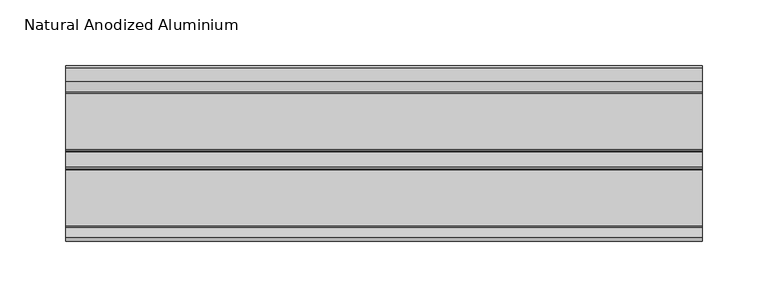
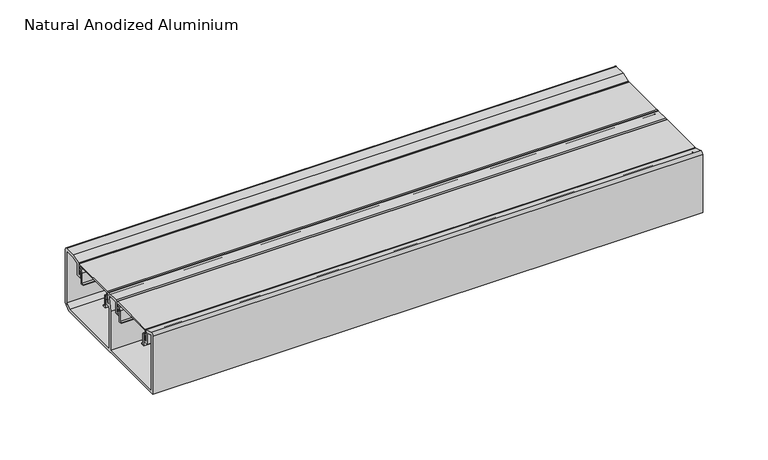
"""IFC4 building model written with IfcOpenShell, lengths in millimetres: proxy geometry, Electrical_Installations_Hager_GBA-Flat-Lid-End-Cap : Natural Anodized Aluminium."""

from ifc_helpers import new_model, si_unit, point, frame, frame_2d, origin, place, context, project, spatial, polyline, circle_curve, trimmed, segment, composite_curve, outline, extrude, source, transform, mapped, element, save


def natural_anodized_aluminium_9d60b319(model_context):
    return source(origin(), model_context, "Body", "SweptSolid", [
        extrude(outline(composite_curve([segment(polyline([(-64.6976563, 54.0894343), (-64.6976563, 2.0), (-2.2476563, 2.0), (-2.2476563, 38.3324137), (-0.2476563, 49.6749773), (-0.2476563, 52.0), (-9.8476563, 52.0), (-9.8476563, 41.5012147), (-14.5382813, 41.5012147), (-14.5382813, 45.748101), (-13.5382813, 45.748101), (-13.5382813, 42.9887147), (-11.6476563, 42.9887147), (-11.6476563, 53.0031102)]), True, "CONTINUOUS"), segment(trimmed(circle_curve(frame_2d((-10.6507665, 53.0031102)), 0.9968898), [point((-11.6476563, 53.0031102))], [point((-10.6507665, 54.0))], False, "CARTESIAN"), True, "CONTINUOUS"), segment(polyline([(-10.6507665, 54.0), (0.7441474, 54.0)]), True, "CONTINUOUS"), segment(trimmed(circle_curve(frame_2d((0.7441474, 52.9918037)), 1.0081963), [point((0.7441474, 54.0))], [point((1.7523437, 52.9918037))], False, "CARTESIAN"), True, "CONTINUOUS"), segment(polyline([(1.7523437, 52.9918037), (1.7523437, 49.5), (0.6591165, 43.3), (3.2523437, 43.3), (3.2523437, 45.7537431), (4.2523437, 45.7537431), (4.2523437, 41.5), (0.3417279, 41.5), (-0.2476563, 38.1574364), (-0.2476563, 2.0), (60.5496526, 2.0), (64.5023437, 5.9526912), (64.5023437, 54.2), (54.8614746, 54.2), (48.5523437, 52.1500391), (48.5523437, 41.5), (44.2523437, 41.5), (44.2523437, 45.7556921), (45.2523437, 45.7556921), (45.2523437, 42.9887147), (46.7523437, 42.9887147), (46.7523437, 53.9835468), (54.4971904, 56.5), (64.8989144, 56.5)]), True, "CONTINUOUS"), segment(trimmed(circle_curve(frame_2d((64.8989144, 54.5965707)), 1.9034293), [point((64.8989144, 56.5))], [point((66.8023437, 54.5965707))], False, "CARTESIAN"), True, "CONTINUOUS"), segment(polyline([(66.8023437, 54.5965707), (66.8023437, 5.0), (61.8023437, 0.0), (-66.9976563, 0.0), (-66.9976563, 54.4045249)]), True, "CONTINUOUS"), segment(trimmed(circle_curve(frame_2d((-64.9278927, 54.4045249)), 2.0697636), [point((-66.9976563, 54.4045249))], [point((-64.2989994, 56.3764312))], False, "CARTESIAN"), True, "CONTINUOUS"), segment(polyline([(-64.2989994, 56.3764312), (-56.8429688, 53.998505), (-56.8429688, 42.9887147), (-54.6789063, 42.9887147), (-54.6789063, 45.7565885), (-53.6789063, 45.7565885), (-53.6789063, 41.5012147), (-58.4476563, 41.5012147), (-58.4476563, 52.0961433), (-64.6976563, 54.0894343)]), True, "CONTINUOUS")], self_intersect=False)), frame((0.0, 0.0, 0.0), z_axis=(1.0, 0.0, 0.0), x_axis=(0.0, 1.0, 0.0)), (0.0, 0.0, 1.0), 485.0),
        extrude(outline(composite_curve([segment(polyline([(-13.1613464, 52.5816445), (-55.0613464, 52.5816445), (-55.0613464, 49.2816445), (-53.7229555, 49.2816445)]), True, "CONTINUOUS"), segment(trimmed(circle_curve(frame_2d((-53.7229555, 47.1700354)), 2.1116091), [point((-53.7229555, 49.2816445))], [point((-51.6113464, 47.1700354))], False, "CARTESIAN"), True, "CONTINUOUS"), segment(polyline([(-51.6113464, 47.1700354), (-51.6113464, 37.6816445), (-49.7113464, 37.6816445), (-49.7113464, 36.8816445), (-52.6113464, 36.8816445), (-52.6113464, 47.3262929)]), True, "CONTINUOUS"), segment(trimmed(circle_curve(frame_2d((-53.566698, 47.3262929)), 0.9553516), [point((-52.6113464, 47.3262929))], [point((-53.566698, 48.2816445))], True, "CARTESIAN"), True, "CONTINUOUS"), segment(polyline([(-53.566698, 48.2816445), (-55.3644879, 48.2816445), (-55.3644879, 43.8012242), (-56.3660339, 43.8012242), (-56.3660339, 53.0900381)]), True, "CONTINUOUS"), segment(trimmed(circle_curve(frame_2d((-55.456072, 53.0900381)), 0.9099619), [point((-56.3660339, 53.0900381))], [point((-55.456072, 54.0))], False, "CARTESIAN"), True, "CONTINUOUS"), segment(polyline([(-55.456072, 54.0), (-12.9820268, 54.0)]), True, "CONTINUOUS"), segment(trimmed(circle_curve(frame_2d((-12.9820268, 52.9918196)), 1.0081804), [point((-12.9820268, 54.0))], [point((-11.9738464, 52.9918196))], False, "CARTESIAN"), True, "CONTINUOUS"), segment(polyline([(-11.9738464, 52.9918196), (-11.9738464, 43.8012242), (-12.858205, 43.8012242), (-12.858205, 48.2816445), (-14.6025892, 48.2816445)]), True, "CONTINUOUS"), segment(trimmed(circle_curve(frame_2d((-14.6025892, 47.2728873)), 1.0087572), [point((-14.6025892, 48.2816445))], [point((-15.6113464, 47.2728873))], True, "CARTESIAN"), True, "CONTINUOUS"), segment(polyline([(-15.6113464, 47.2728873), (-15.6113464, 36.8816445), (-18.5113464, 36.8816445), (-18.5113464, 37.6816445), (-16.6113464, 37.6816445), (-16.6113464, 47.3197896)]), True, "CONTINUOUS"), segment(trimmed(circle_curve(frame_2d((-14.6494915, 47.3197896)), 1.9618549), [point((-16.6113464, 47.3197896))], [point((-14.6494915, 49.2816445))], False, "CARTESIAN"), True, "CONTINUOUS"), segment(polyline([(-14.6494915, 49.2816445), (-13.1613464, 49.2816445), (-13.1613464, 52.5816445)]), True, "CONTINUOUS")], self_intersect=False)), frame((0.0, 0.0, 0.0), z_axis=(1.0, 0.0, 0.0), x_axis=(0.0, 1.0, 0.0)), (0.0, 0.0, 1.0), 485.0),
        extrude(outline(composite_curve([segment(polyline([(45.1923672, 52.5816445), (3.2923672, 52.5816445), (3.2923672, 49.2816445), (4.6307581, 49.2816445)]), True, "CONTINUOUS"), segment(trimmed(circle_curve(frame_2d((4.6307581, 47.1700354)), 2.1116091), [point((4.6307581, 49.2816445))], [point((6.7423672, 47.1700354))], False, "CARTESIAN"), True, "CONTINUOUS"), segment(polyline([(6.7423672, 47.1700354), (6.7423672, 37.6816445), (8.6423672, 37.6816445), (8.6423672, 36.8816445), (5.7423672, 36.8816445), (5.7423672, 47.3262929)]), True, "CONTINUOUS"), segment(trimmed(circle_curve(frame_2d((4.7870156, 47.3262929)), 0.9553516), [point((5.7423672, 47.3262929))], [point((4.7870156, 48.2816445))], True, "CARTESIAN"), True, "CONTINUOUS"), segment(polyline([(4.7870156, 48.2816445), (2.9892258, 48.2816445), (2.9892258, 43.8231023), (1.9876797, 43.8231023), (1.9876797, 53.0900381)]), True, "CONTINUOUS"), segment(trimmed(circle_curve(frame_2d((2.8976417, 53.0900381)), 0.9099619), [point((1.9876797, 53.0900381))], [point((2.8976417, 54.0))], False, "CARTESIAN"), True, "CONTINUOUS"), segment(polyline([(2.8976417, 54.0), (45.3716869, 54.0)]), True, "CONTINUOUS"), segment(trimmed(circle_curve(frame_2d((45.3716869, 52.9918196)), 1.0081804), [point((45.3716869, 54.0))], [point((46.3798672, 52.9918196))], False, "CARTESIAN"), True, "CONTINUOUS"), segment(polyline([(46.3798672, 52.9918196), (46.3798672, 43.9733035), (45.4955087, 43.9733035), (45.4955087, 48.2816445), (43.7511244, 48.2816445)]), True, "CONTINUOUS"), segment(trimmed(circle_curve(frame_2d((43.7511244, 47.2728873)), 1.0087572), [point((43.7511244, 48.2816445))], [point((42.7423672, 47.2728873))], True, "CARTESIAN"), True, "CONTINUOUS"), segment(polyline([(42.7423672, 47.2728873), (42.7423672, 36.8816445), (39.8423672, 36.8816445), (39.8423672, 37.6816445), (41.7423672, 37.6816445), (41.7423672, 47.3197896)]), True, "CONTINUOUS"), segment(trimmed(circle_curve(frame_2d((43.7042221, 47.3197896)), 1.9618549), [point((41.7423672, 47.3197896))], [point((43.7042221, 49.2816445))], False, "CARTESIAN"), True, "CONTINUOUS"), segment(polyline([(43.7042221, 49.2816445), (45.1923672, 49.2816445), (45.1923672, 52.5816445)]), True, "CONTINUOUS")], self_intersect=False)), frame((0.0, 0.0, 0.0), z_axis=(1.0, 0.0, 0.0), x_axis=(0.0, 1.0, 0.0)), (0.0, 0.0, 1.0), 485.0),
    ])


if __name__ == "__main__":
    model = new_model("IFC4")
    model_context = context("Model", 3, world=origin())
    ifc_project = project(units=[si_unit("LENGTHUNIT", "METRE", prefix="MILLI")], contexts=[model_context])
    site = spatial("IfcSite", under=ifc_project)
    building = spatial("IfcBuilding", under=site)
    placement = place(None, origin())
    natural_anodized_aluminium_shape = natural_anodized_aluminium_9d60b319(model_context)
    element("IfcBuildingElementProxy", 1, Name="Electrical_Installations_Hager_GBA-Flat-Lid-End-Cap : Natural Anodized Aluminium", ObjectType="Electrical_Installations_Hager_GBA-Flat-Lid-End-Cap : Natural Anodized Aluminium", at=placement, inside=building, context=model_context, shape_type="MappedRepresentation", body=[
        mapped(natural_anodized_aluminium_shape, transform((0.0, 0.0, 0.0), x_axis=(1.0, 0.0, 0.0), y_axis=(0.0, 1.0, 0.0), z_axis=(0.0, 0.0, 1.0))),
    ])
    save(model, "model.ifc")
